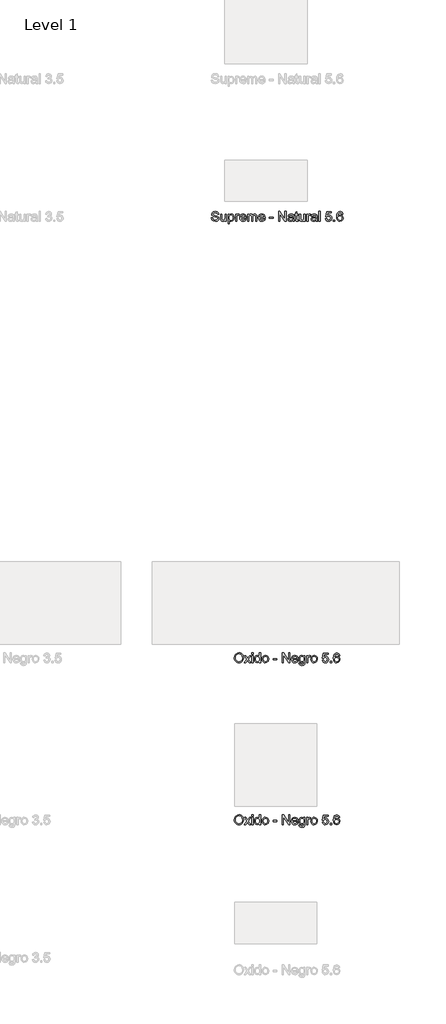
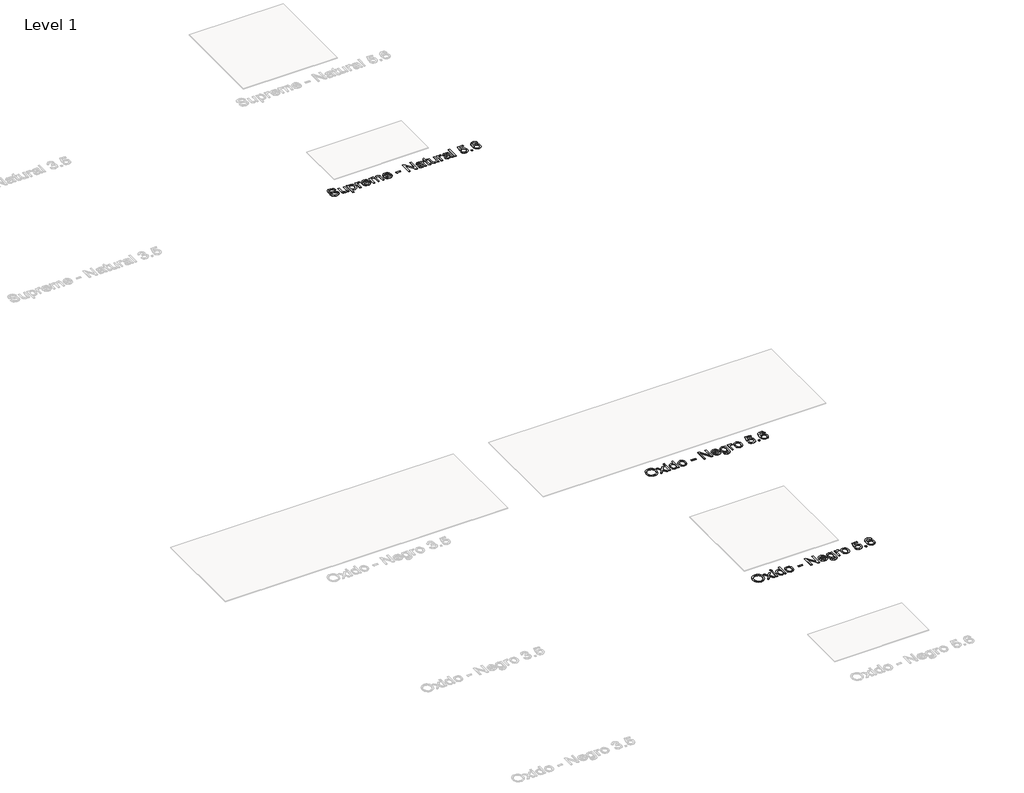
# One storey, part 39 of 80: 3 proxies.
"""IFC4 building model written with IfcOpenShell, lengths in millimetres."""

from ifc_helpers import new_model, si_unit, origin, origin_with_axes, place, context, project, spatial, polyline, outline, extrude, element, save

model = new_model("IFC4")

# Units and contexts
model_context = context("Model", 3, world=origin())
ifc_project = project(units=[si_unit("LENGTHUNIT", "METRE", prefix="MILLI")], contexts=[model_context])

# Site, building, storey
site = spatial("IfcSite", under=ifc_project)
building = spatial("IfcBuilding", under=site)
storey = spatial("IfcBuildingStorey", under=building, Name="Level 1", Elevation=0.0)

# Proxies
placement = place(None, origin())
element("IfcBuildingElementProxy", 1, Name="24\" Arial", ObjectType="24\" Arial", at=placement, inside=storey, context=model_context, shape_type="SweptSolid", body=[
    extrude(outline(polyline([(16211.3854306, -7587.3504862), (16215.3229306, -7561.2230824), (16227.1354306, -7541.4562555), (16245.1714883, -7529.0163516), (16267.7796613, -7524.869717), (16283.2772575, -7526.8168324), (16297.1738921, -7532.6581785), (16308.7123536, -7541.9826978), (16317.1354306, -7554.3793324), (16322.284469, -7569.2495247), (16324.0008152, -7585.994717), (16322.1943248, -7602.963467), (16316.7748536, -7618.0427939), (16308.0416806, -7630.4610632), (16296.2940844, -7639.4466401), (16282.5164402, -7644.8985632), (16267.6931229, -7646.7158709), (16251.9575459, -7644.7074574), (16237.9815844, -7638.682217), (16226.471969, -7629.1846209), (16218.1354306, -7616.7591401), (16213.0729306, -7602.4622651), (16211.3854306, -7587.3504862)]), holes=[polyline([(16226.1546613, -7587.494717), (16229.1077863, -7605.9778901), (16237.9671613, -7620.0620247), (16251.2832671, -7628.9754862), (16267.6065844, -7631.9466401), (16284.1678825, -7628.9466401), (16297.5056229, -7619.9466401), (16306.300094, -7605.4298132), (16309.2315844, -7585.8793324), (16304.2123536, -7561.5043324), (16298.0356709, -7552.2627459), (16289.5440844, -7545.3649093), (16267.8661998, -7539.6389478), (16251.9791806, -7542.3973612), (16238.471969, -7550.6726016), (16229.2339883, -7565.3949574), (16226.1546613, -7587.494717)])]), origin_with_axes(), (0.0, 0.0, 1.0), 2.0),
    extrude(outline(polyline([(16333.2315844, -7644.869717), (16364.7892767, -7601.2543324), (16335.0777383, -7558.1004862), (16352.846969, -7558.1004862), (16367.1835075, -7578.869717), (16373.8758152, -7588.6774093), (16379.6738921, -7580.6581785), (16396.0008152, -7558.1004862), (16413.7700459, -7558.1004862), (16382.5585075, -7601.2543324), (16412.6161998, -7644.869717), (16394.846969, -7644.869717), (16376.7604306, -7618.6485632), (16373.4431229, -7613.8601016), (16351.0008152, -7644.869717), (16333.2315844, -7644.869717)])), origin_with_axes(), (0.0, 0.0, 1.0), 2.0),
    extrude(outline(polyline([(16425.5392767, -7541.4851016), (16425.5392767, -7526.7158709), (16440.3085075, -7526.7158709), (16440.3085075, -7541.4851016), (16425.5392767, -7541.4851016)])), origin_with_axes(), (0.0, 0.0, 1.0), 2.0),
    extrude(outline(polyline([(16425.5392767, -7644.869717), (16425.5392767, -7558.1004862), (16440.3085075, -7558.1004862), (16440.3085075, -7644.869717), (16425.5392767, -7644.869717)])), origin_with_axes(), (0.0, 0.0, 1.0), 2.0),
    extrude(outline(polyline([(16516.0008152, -7644.869717), (16516.0008152, -7630.9370247), (16506.2291806, -7642.7711593), (16492.721969, -7646.7158709), (16474.4335075, -7641.0043324), (16461.5104306, -7625.0668324), (16456.9238921, -7601.5716401), (16461.1498536, -7578.0620247), (16466.4286998, -7568.7375055), (16473.8133152, -7561.8793324), (16492.6642767, -7556.2543324), (16506.2796613, -7560.2783709), (16516.0008152, -7570.7351016), (16516.0008152, -7526.7158709), (16530.7700459, -7526.7158709), (16530.7700459, -7644.869717), (16516.0008152, -7644.869717)]), holes=[polyline([(16471.6931229, -7601.5139478), (16473.3589883, -7614.8733228), (16478.3565844, -7624.3745247), (16485.6186036, -7630.0536112), (16494.0777383, -7631.9466401), (16502.5332671, -7630.1401497), (16509.6113921, -7624.7206785), (16514.4034594, -7615.5872651), (16516.0008152, -7602.6389478), (16514.3746133, -7588.4826978), (16509.4960075, -7578.6677939), (16502.237594, -7572.9346209), (16493.471969, -7571.0235632), (16484.9262959, -7572.8588997), (16477.9238921, -7578.3649093), (16473.2508152, -7587.822842), (16471.6931229, -7601.5139478)])]), origin_with_axes(), (0.0, 0.0, 1.0), 2.0),
    extrude(outline(polyline([(16549.2315844, -7601.4851016), (16552.4262959, -7580.5644285), (16562.0104306, -7565.8601016), (16573.8517767, -7558.6557747), (16588.0296613, -7556.2543324), (16603.5452863, -7559.1786112), (16615.9383152, -7567.9514478), (16624.0621133, -7581.8805343), (16626.7700459, -7600.2735632), (16621.9815844, -7626.5524093), (16608.034469, -7641.4226016), (16588.0296613, -7646.7158709), (16572.3265363, -7643.8024093), (16559.9479306, -7635.0620247), (16551.9106709, -7620.8408709), (16549.2315844, -7601.4851016)]), holes=[polyline([(16564.0008152, -7601.4562555), (16565.7099498, -7614.822842), (16570.8373536, -7624.3456785), (16578.5536998, -7630.0463997), (16588.0296613, -7631.9466401), (16597.4623536, -7630.0355824), (16605.1642767, -7624.3024093), (16610.2916806, -7614.6533709), (16612.0008152, -7600.994717), (16610.2808633, -7588.0175535), (16605.1210075, -7578.6245247), (16597.4082671, -7572.9238035), (16588.0296613, -7571.0235632), (16578.5536998, -7572.916592), (16570.8373536, -7578.5956785), (16565.7099498, -7588.0968805), (16564.0008152, -7601.4562555)])]), origin_with_axes(), (0.0, 0.0, 1.0), 2.0),
    extrude(outline(polyline([(16682.1546613, -7609.7927939), (16682.1546613, -7595.0235632), (16728.3085075, -7595.0235632), (16728.3085075, -7609.7927939), (16682.1546613, -7609.7927939)])), origin_with_axes(), (0.0, 0.0, 1.0), 2.0),
    extrude(outline(polyline([(16792.9238921, -7644.869717), (16792.9238921, -7526.7158709), (16808.7315844, -7526.7158709), (16870.4623536, -7620.3216401), (16870.4623536, -7526.7158709), (16885.2315844, -7526.7158709), (16885.2315844, -7644.869717), (16869.4238921, -7644.869717), (16807.6931229, -7551.2351016), (16807.6931229, -7644.869717), (16792.9238921, -7644.869717)])), origin_with_axes(), (0.0, 0.0, 1.0), 2.0),
    extrude(outline(polyline([(16969.9815844, -7619.0235632), (16984.4623536, -7620.869717), (16979.2448056, -7631.7807747), (16970.9190844, -7639.9370247), (16959.6726902, -7645.0211593), (16945.6931229, -7646.7158709), (16928.3637959, -7643.791592), (16915.0296613, -7635.0187555), (16906.5272575, -7620.9670728), (16903.6931229, -7602.2062555), (16906.5561036, -7582.8144285), (16915.1450459, -7568.3120247), (16928.2988921, -7559.2687555), (16944.8565844, -7556.2543324), (16960.8986517, -7559.2615439), (16973.7171613, -7568.2831785), (16982.1222094, -7582.7567362), (16984.9238921, -7602.119717), (16984.8373536, -7606.1004862), (16918.4623536, -7606.1004862), (16921.018844, -7617.1557747), (16926.9575459, -7625.2831785), (16935.5284594, -7630.2807747), (16945.9815844, -7631.9466401), (16960.4623536, -7628.8601016), (16969.9815844, -7619.0235632)]), holes=[polyline([(16918.4623536, -7591.3312555), (16970.1546613, -7591.3312555), (16964.2411998, -7577.9466401), (16955.6306229, -7572.7543324), (16944.7988921, -7571.0235632), (16926.6113921, -7576.5476016), (16920.8890363, -7583.0055343), (16918.4623536, -7591.3312555)])]), origin_with_axes(), (0.0, 0.0, 1.0), 2.0),
    extrude(outline(polyline([(16996.0008152, -7652.2543324), (17010.7700459, -7654.1004862), (17015.5585075, -7661.8889478), (17029.8950459, -7665.1774093), (17045.0104306, -7661.4562555), (17052.221969, -7651.0139478), (17053.2315844, -7633.7927939), (17042.8325459, -7642.1004862), (17030.1546613, -7644.869717), (17014.9274979, -7641.6461593), (17003.5729306, -7631.9754862), (16996.5092286, -7617.7976016), (16994.1546613, -7601.0524093), (16998.3806229, -7578.1629862), (17010.6113921, -7561.9658709), (17029.4335075, -7556.2543324), (17042.6089883, -7559.4851016), (17053.2315844, -7569.1774093), (17053.2315844, -7558.1004862), (17068.0008152, -7558.1004862), (17068.0008152, -7633.0139478), (17063.9623536, -7661.7014478), (17051.1690844, -7675.0427939), (17029.6065844, -7679.9466401), (17015.8649979, -7678.2194766), (17005.0440844, -7673.0379862), (16998.1029786, -7664.3877459), (16996.0008152, -7652.2543324)]), holes=[polyline([(17008.9238921, -7600.0427939), (17010.4996133, -7613.5896689), (17015.2267767, -7622.9033709), (17022.3337479, -7628.3012074), (17031.0488921, -7630.1004862), (17039.6991325, -7628.3120247), (17046.8421613, -7622.9466401), (17051.6342286, -7613.7519285), (17053.2315844, -7600.4754862), (17051.5873536, -7587.6713997), (17046.6546613, -7578.4514478), (17039.4070652, -7572.8805343), (17030.8181229, -7571.0235632), (17022.3842286, -7572.8516882), (17015.3133152, -7578.3360632), (17010.5212479, -7587.4189959), (17008.9238921, -7600.0427939)])]), origin_with_axes(), (0.0, 0.0, 1.0), 2.0),
    extrude(outline(polyline([(17090.1546613, -7644.869717), (17090.1546613, -7558.1004862), (17103.0777383, -7558.1004862), (17103.0777383, -7570.9370247), (17112.2508152, -7559.1101016), (17121.4815844, -7556.2543324), (17136.3085075, -7560.8120247), (17131.3758152, -7574.0524093), (17120.9911998, -7571.0235632), (17112.6402383, -7573.9370247), (17107.3181229, -7582.0139478), (17104.9238921, -7599.2639478), (17104.9238921, -7644.869717), (17090.1546613, -7644.869717)])), origin_with_axes(), (0.0, 0.0, 1.0), 2.0),
    extrude(outline(polyline([(17141.846969, -7601.4851016), (17145.0416806, -7580.5644285), (17154.6258152, -7565.8601016), (17166.4671613, -7558.6557747), (17180.6450459, -7556.2543324), (17196.1606709, -7559.1786112), (17208.5536998, -7567.9514478), (17216.6774979, -7581.8805343), (17219.3854306, -7600.2735632), (17214.596969, -7626.5524093), (17200.6498536, -7641.4226016), (17180.6450459, -7646.7158709), (17164.9419209, -7643.8024093), (17152.5633152, -7635.0620247), (17144.5260556, -7620.8408709), (17141.846969, -7601.4851016)]), holes=[polyline([(17156.6161998, -7601.4562555), (17158.3253344, -7614.822842), (17163.4527383, -7624.3456785), (17171.1690844, -7630.0463997), (17180.6450459, -7631.9466401), (17190.0777383, -7630.0355824), (17197.7796613, -7624.3024093), (17202.9070652, -7614.6533709), (17204.6161998, -7600.994717), (17202.8962479, -7588.0175535), (17197.7363921, -7578.6245247), (17190.0236517, -7572.9238035), (17180.6450459, -7571.0235632), (17171.1690844, -7572.916592), (17163.4527383, -7578.5956785), (17158.3253344, -7588.0968805), (17156.6161998, -7601.4562555)])]), origin_with_axes(), (0.0, 0.0, 1.0), 2.0),
    extrude(outline(polyline([(17278.4623536, -7613.4851016), (17293.2315844, -7611.6389478), (17300.6738921, -7626.8552939), (17316.1065844, -7631.9466401), (17326.6931229, -7630.1762074), (17334.6258152, -7624.8649093), (17339.5801421, -7616.6257266), (17341.2315844, -7606.0716401), (17339.6847094, -7596.1341401), (17335.0440844, -7588.5331785), (17327.2736517, -7583.7086593), (17316.3373536, -7582.1004862), (17303.3710075, -7584.6677939), (17295.0777383, -7591.3312555), (17280.3085075, -7589.4851016), (17293.2315844, -7528.5620247), (17350.4623536, -7528.5620247), (17350.4623536, -7543.3312555), (17305.1738921, -7543.3312555), (17298.8565844, -7575.869717), (17309.4070652, -7569.4658709), (17320.4623536, -7567.3312555), (17334.2616325, -7569.9778901), (17345.7171613, -7577.9177939), (17353.4299017, -7590.0187555), (17356.0008152, -7605.1485632), (17353.6859113, -7619.9177939), (17346.7411998, -7632.5524093), (17333.4431229, -7643.1750055), (17316.0488921, -7646.7158709), (17301.5428825, -7644.4406305), (17289.9863921, -7637.6149093), (17282.0645171, -7627.0319766), (17278.4623536, -7613.4851016)])), origin_with_axes(), (0.0, 0.0, 1.0), 2.0),
    extrude(outline(polyline([(17376.3085075, -7644.869717), (17376.3085075, -7630.1004862), (17391.0777383, -7630.1004862), (17391.0777383, -7644.869717), (17376.3085075, -7644.869717)])), origin_with_axes(), (0.0, 0.0, 1.0), 2.0),
    extrude(outline(polyline([(17490.7700459, -7558.1004862), (17476.0008152, -7559.9466401), (17470.4046613, -7547.6293324), (17463.7051421, -7543.0211593), (17455.6065844, -7541.4851016), (17442.2796613, -7545.0620247), (17432.1979306, -7558.4899093), (17428.0008152, -7584.8120247), (17441.0248536, -7573.0283709), (17457.1642767, -7569.1774093), (17470.8085075, -7571.8096209), (17482.2604306, -7579.7062555), (17490.0272575, -7591.7711593), (17492.6161998, -7606.9081785), (17487.7411998, -7627.2879862), (17474.3277383, -7641.7110632), (17454.971969, -7646.7158709), (17438.2159594, -7643.3985632), (17424.8710075, -7633.4466401), (17416.1414402, -7615.8793324), (17413.2315844, -7589.7158709), (17416.4623536, -7560.3000055), (17426.1546613, -7540.1870247), (17439.3878344, -7530.0836593), (17456.5296613, -7526.7158709), (17469.4887959, -7528.8000055), (17479.8661998, -7535.0524093), (17487.1354306, -7544.9826978), (17490.7700459, -7558.1004862)]), holes=[polyline([(17428.0008152, -7606.6774093), (17431.4190844, -7619.4706785), (17440.5056229, -7628.7591401), (17453.8181229, -7631.9466401), (17463.5645171, -7630.2951978), (17471.2267767, -7625.3408709), (17476.1919209, -7617.5524093), (17477.846969, -7607.3985632), (17476.2135556, -7597.6521689), (17471.3133152, -7590.2206785), (17463.5212479, -7585.5151497), (17453.2123536, -7583.9466401), (17443.4803825, -7585.5151497), (17435.3421613, -7590.2206785), (17429.8361517, -7597.4718805), (17428.0008152, -7606.6774093)])]), origin_with_axes(), (0.0, 0.0, 1.0), 2.0),
])
element("IfcBuildingElementProxy", 2, Name="24\" Arial", ObjectType="24\" Arial", at=placement, inside=storey, context=model_context, shape_type="SweptSolid", body=[
    extrude(outline(polyline([(16211.3854306, -9552.677529), (16215.3229306, -9526.5501252), (16227.1354306, -9506.7832983), (16245.1714883, -9494.3433944), (16267.7796613, -9490.1967598), (16283.2772575, -9492.1438752), (16297.1738921, -9497.9852213), (16308.7123536, -9507.3097406), (16317.1354306, -9519.7063752), (16322.284469, -9534.5765675), (16324.0008152, -9551.3217598), (16322.1943248, -9568.2905098), (16316.7748536, -9583.3698367), (16308.0416806, -9595.788106), (16296.2940844, -9604.7736829), (16282.5164402, -9610.225606), (16267.6931229, -9612.0429137), (16251.9575459, -9610.0345002), (16237.9815844, -9604.0092598), (16226.471969, -9594.5116637), (16218.1354306, -9582.0861829), (16213.0729306, -9567.7893079), (16211.3854306, -9552.677529)]), holes=[polyline([(16226.1546613, -9552.8217598), (16229.1077863, -9571.3049329), (16237.9671613, -9585.3890675), (16251.2832671, -9594.302529), (16267.6065844, -9597.2736829), (16284.1678825, -9594.2736829), (16297.5056229, -9585.2736829), (16306.300094, -9570.756856), (16309.2315844, -9551.2063752), (16304.2123536, -9526.8313752), (16298.0356709, -9517.5897887), (16289.5440844, -9510.6919521), (16267.8661998, -9504.9659906), (16251.9791806, -9507.724404), (16238.471969, -9515.9996444), (16229.2339883, -9530.7220002), (16226.1546613, -9552.8217598)])]), origin_with_axes(), (0.0, 0.0, 1.0), 2.0),
    extrude(outline(polyline([(16333.2315844, -9610.1967598), (16364.7892767, -9566.5813752), (16335.0777383, -9523.427529), (16352.846969, -9523.427529), (16367.1835075, -9544.1967598), (16373.8758152, -9554.0044521), (16379.6738921, -9545.9852213), (16396.0008152, -9523.427529), (16413.7700459, -9523.427529), (16382.5585075, -9566.5813752), (16412.6161998, -9610.1967598), (16394.846969, -9610.1967598), (16376.7604306, -9583.975606), (16373.4431229, -9579.1871444), (16351.0008152, -9610.1967598), (16333.2315844, -9610.1967598)])), origin_with_axes(), (0.0, 0.0, 1.0), 2.0),
    extrude(outline(polyline([(16425.5392767, -9506.8121444), (16425.5392767, -9492.0429137), (16440.3085075, -9492.0429137), (16440.3085075, -9506.8121444), (16425.5392767, -9506.8121444)])), origin_with_axes(), (0.0, 0.0, 1.0), 2.0),
    extrude(outline(polyline([(16425.5392767, -9610.1967598), (16425.5392767, -9523.427529), (16440.3085075, -9523.427529), (16440.3085075, -9610.1967598), (16425.5392767, -9610.1967598)])), origin_with_axes(), (0.0, 0.0, 1.0), 2.0),
    extrude(outline(polyline([(16516.0008152, -9610.1967598), (16516.0008152, -9596.2640675), (16506.2291806, -9608.0982021), (16492.721969, -9612.0429137), (16474.4335075, -9606.3313752), (16461.5104306, -9590.3938752), (16456.9238921, -9566.8986829), (16461.1498536, -9543.3890675), (16466.4286998, -9534.0645483), (16473.8133152, -9527.2063752), (16492.6642767, -9521.5813752), (16506.2796613, -9525.6054137), (16516.0008152, -9536.0621444), (16516.0008152, -9492.0429137), (16530.7700459, -9492.0429137), (16530.7700459, -9610.1967598), (16516.0008152, -9610.1967598)]), holes=[polyline([(16471.6931229, -9566.8409906), (16473.3589883, -9580.2003656), (16478.3565844, -9589.7015675), (16485.6186036, -9595.380654), (16494.0777383, -9597.2736829), (16502.5332671, -9595.4671925), (16509.6113921, -9590.0477213), (16514.4034594, -9580.9143079), (16516.0008152, -9567.9659906), (16514.3746133, -9553.8097406), (16509.4960075, -9543.9948367), (16502.237594, -9538.2616637), (16493.471969, -9536.350606), (16484.9262959, -9538.1859425), (16477.9238921, -9543.6919521), (16473.2508152, -9553.1498848), (16471.6931229, -9566.8409906)])]), origin_with_axes(), (0.0, 0.0, 1.0), 2.0),
    extrude(outline(polyline([(16549.2315844, -9566.8121444), (16552.4262959, -9545.8914713), (16562.0104306, -9531.1871444), (16573.8517767, -9523.9828175), (16588.0296613, -9521.5813752), (16603.5452863, -9524.505654), (16615.9383152, -9533.2784906), (16624.0621133, -9547.2075771), (16626.7700459, -9565.600606), (16621.9815844, -9591.8794521), (16608.034469, -9606.7496444), (16588.0296613, -9612.0429137), (16572.3265363, -9609.1294521), (16559.9479306, -9600.3890675), (16551.9106709, -9586.1679137), (16549.2315844, -9566.8121444)]), holes=[polyline([(16564.0008152, -9566.7832983), (16565.7099498, -9580.1498848), (16570.8373536, -9589.6727213), (16578.5536998, -9595.3734425), (16588.0296613, -9597.2736829), (16597.4623536, -9595.3626252), (16605.1642767, -9589.6294521), (16610.2916806, -9579.9804137), (16612.0008152, -9566.3217598), (16610.2808633, -9553.3445963), (16605.1210075, -9543.9515675), (16597.4082671, -9538.2508463), (16588.0296613, -9536.350606), (16578.5536998, -9538.2436348), (16570.8373536, -9543.9227213), (16565.7099498, -9553.4239233), (16564.0008152, -9566.7832983)])]), origin_with_axes(), (0.0, 0.0, 1.0), 2.0),
    extrude(outline(polyline([(16682.1546613, -9575.1198367), (16682.1546613, -9560.350606), (16728.3085075, -9560.350606), (16728.3085075, -9575.1198367), (16682.1546613, -9575.1198367)])), origin_with_axes(), (0.0, 0.0, 1.0), 2.0),
    extrude(outline(polyline([(16792.9238921, -9610.1967598), (16792.9238921, -9492.0429137), (16808.7315844, -9492.0429137), (16870.4623536, -9585.6486829), (16870.4623536, -9492.0429137), (16885.2315844, -9492.0429137), (16885.2315844, -9610.1967598), (16869.4238921, -9610.1967598), (16807.6931229, -9516.5621444), (16807.6931229, -9610.1967598), (16792.9238921, -9610.1967598)])), origin_with_axes(), (0.0, 0.0, 1.0), 2.0),
    extrude(outline(polyline([(16969.9815844, -9584.350606), (16984.4623536, -9586.1967598), (16979.2448056, -9597.1078175), (16970.9190844, -9605.2640675), (16959.6726902, -9610.3482021), (16945.6931229, -9612.0429137), (16928.3637959, -9609.1186348), (16915.0296613, -9600.3457983), (16906.5272575, -9586.2941156), (16903.6931229, -9567.5332983), (16906.5561036, -9548.1414713), (16915.1450459, -9533.6390675), (16928.2988921, -9524.5957983), (16944.8565844, -9521.5813752), (16960.8986517, -9524.5885867), (16973.7171613, -9533.6102213), (16982.1222094, -9548.083779), (16984.9238921, -9567.4467598), (16984.8373536, -9571.427529), (16918.4623536, -9571.427529), (16921.018844, -9582.4828175), (16926.9575459, -9590.6102213), (16935.5284594, -9595.6078175), (16945.9815844, -9597.2736829), (16960.4623536, -9594.1871444), (16969.9815844, -9584.350606)]), holes=[polyline([(16918.4623536, -9556.6582983), (16970.1546613, -9556.6582983), (16964.2411998, -9543.2736829), (16955.6306229, -9538.0813752), (16944.7988921, -9536.350606), (16926.6113921, -9541.8746444), (16920.8890363, -9548.3325771), (16918.4623536, -9556.6582983)])]), origin_with_axes(), (0.0, 0.0, 1.0), 2.0),
    extrude(outline(polyline([(16996.0008152, -9617.5813752), (17010.7700459, -9619.427529), (17015.5585075, -9627.2159906), (17029.8950459, -9630.5044521), (17045.0104306, -9626.7832983), (17052.221969, -9616.3409906), (17053.2315844, -9599.1198367), (17042.8325459, -9607.427529), (17030.1546613, -9610.1967598), (17014.9274979, -9606.9732021), (17003.5729306, -9597.302529), (16996.5092286, -9583.1246444), (16994.1546613, -9566.3794521), (16998.3806229, -9543.490029), (17010.6113921, -9527.2929137), (17029.4335075, -9521.5813752), (17042.6089883, -9524.8121444), (17053.2315844, -9534.5044521), (17053.2315844, -9523.427529), (17068.0008152, -9523.427529), (17068.0008152, -9598.3409906), (17063.9623536, -9627.0284906), (17051.1690844, -9640.3698367), (17029.6065844, -9645.2736829), (17015.8649979, -9643.5465194), (17005.0440844, -9638.365029), (16998.1029786, -9629.7147887), (16996.0008152, -9617.5813752)]), holes=[polyline([(17008.9238921, -9565.3698367), (17010.4996133, -9578.9167117), (17015.2267767, -9588.2304137), (17022.3337479, -9593.6282502), (17031.0488921, -9595.427529), (17039.6991325, -9593.6390675), (17046.8421613, -9588.2736829), (17051.6342286, -9579.0789713), (17053.2315844, -9565.802529), (17051.5873536, -9552.9984425), (17046.6546613, -9543.7784906), (17039.4070652, -9538.2075771), (17030.8181229, -9536.350606), (17022.3842286, -9538.178731), (17015.3133152, -9543.663106), (17010.5212479, -9552.7460387), (17008.9238921, -9565.3698367)])]), origin_with_axes(), (0.0, 0.0, 1.0), 2.0),
    extrude(outline(polyline([(17090.1546613, -9610.1967598), (17090.1546613, -9523.427529), (17103.0777383, -9523.427529), (17103.0777383, -9536.2640675), (17112.2508152, -9524.4371444), (17121.4815844, -9521.5813752), (17136.3085075, -9526.1390675), (17131.3758152, -9539.3794521), (17120.9911998, -9536.350606), (17112.6402383, -9539.2640675), (17107.3181229, -9547.3409906), (17104.9238921, -9564.5909906), (17104.9238921, -9610.1967598), (17090.1546613, -9610.1967598)])), origin_with_axes(), (0.0, 0.0, 1.0), 2.0),
    extrude(outline(polyline([(17141.846969, -9566.8121444), (17145.0416806, -9545.8914713), (17154.6258152, -9531.1871444), (17166.4671613, -9523.9828175), (17180.6450459, -9521.5813752), (17196.1606709, -9524.505654), (17208.5536998, -9533.2784906), (17216.6774979, -9547.2075771), (17219.3854306, -9565.600606), (17214.596969, -9591.8794521), (17200.6498536, -9606.7496444), (17180.6450459, -9612.0429137), (17164.9419209, -9609.1294521), (17152.5633152, -9600.3890675), (17144.5260556, -9586.1679137), (17141.846969, -9566.8121444)]), holes=[polyline([(17156.6161998, -9566.7832983), (17158.3253344, -9580.1498848), (17163.4527383, -9589.6727213), (17171.1690844, -9595.3734425), (17180.6450459, -9597.2736829), (17190.0777383, -9595.3626252), (17197.7796613, -9589.6294521), (17202.9070652, -9579.9804137), (17204.6161998, -9566.3217598), (17202.8962479, -9553.3445963), (17197.7363921, -9543.9515675), (17190.0236517, -9538.2508463), (17180.6450459, -9536.350606), (17171.1690844, -9538.2436348), (17163.4527383, -9543.9227213), (17158.3253344, -9553.4239233), (17156.6161998, -9566.7832983)])]), origin_with_axes(), (0.0, 0.0, 1.0), 2.0),
    extrude(outline(polyline([(17278.4623536, -9578.8121444), (17293.2315844, -9576.9659906), (17300.6738921, -9592.1823367), (17316.1065844, -9597.2736829), (17326.6931229, -9595.5032502), (17334.6258152, -9590.1919521), (17339.5801421, -9581.9527694), (17341.2315844, -9571.3986829), (17339.6847094, -9561.4611829), (17335.0440844, -9553.8602213), (17327.2736517, -9549.0357021), (17316.3373536, -9547.427529), (17303.3710075, -9549.9948367), (17295.0777383, -9556.6582983), (17280.3085075, -9554.8121444), (17293.2315844, -9493.8890675), (17350.4623536, -9493.8890675), (17350.4623536, -9508.6582983), (17305.1738921, -9508.6582983), (17298.8565844, -9541.1967598), (17309.4070652, -9534.7929137), (17320.4623536, -9532.6582983), (17334.2616325, -9535.3049329), (17345.7171613, -9543.2448367), (17353.4299017, -9555.3457983), (17356.0008152, -9570.475606), (17353.6859113, -9585.2448367), (17346.7411998, -9597.8794521), (17333.4431229, -9608.5020483), (17316.0488921, -9612.0429137), (17301.5428825, -9609.7676733), (17289.9863921, -9602.9419521), (17282.0645171, -9592.3590194), (17278.4623536, -9578.8121444)])), origin_with_axes(), (0.0, 0.0, 1.0), 2.0),
    extrude(outline(polyline([(17376.3085075, -9610.1967598), (17376.3085075, -9595.427529), (17391.0777383, -9595.427529), (17391.0777383, -9610.1967598), (17376.3085075, -9610.1967598)])), origin_with_axes(), (0.0, 0.0, 1.0), 2.0),
    extrude(outline(polyline([(17490.7700459, -9523.427529), (17476.0008152, -9525.2736829), (17470.4046613, -9512.9563752), (17463.7051421, -9508.3482021), (17455.6065844, -9506.8121444), (17442.2796613, -9510.3890675), (17432.1979306, -9523.8169521), (17428.0008152, -9550.1390675), (17441.0248536, -9538.3554137), (17457.1642767, -9534.5044521), (17470.8085075, -9537.1366637), (17482.2604306, -9545.0332983), (17490.0272575, -9557.0982021), (17492.6161998, -9572.2352213), (17487.7411998, -9592.615029), (17474.3277383, -9607.038106), (17454.971969, -9612.0429137), (17438.2159594, -9608.725606), (17424.8710075, -9598.7736829), (17416.1414402, -9581.2063752), (17413.2315844, -9555.0429137), (17416.4623536, -9525.6270483), (17426.1546613, -9505.5140675), (17439.3878344, -9495.4107021), (17456.5296613, -9492.0429137), (17469.4887959, -9494.1270483), (17479.8661998, -9500.3794521), (17487.1354306, -9510.3097406), (17490.7700459, -9523.427529)]), holes=[polyline([(17428.0008152, -9572.0044521), (17431.4190844, -9584.7977213), (17440.5056229, -9594.0861829), (17453.8181229, -9597.2736829), (17463.5645171, -9595.6222406), (17471.2267767, -9590.6679137), (17476.1919209, -9582.8794521), (17477.846969, -9572.725606), (17476.2135556, -9562.9792117), (17471.3133152, -9555.5477213), (17463.5212479, -9550.8421925), (17453.2123536, -9549.2736829), (17443.4803825, -9550.8421925), (17435.3421613, -9555.5477213), (17429.8361517, -9562.7989233), (17428.0008152, -9572.0044521)])]), origin_with_axes(), (0.0, 0.0, 1.0), 2.0),
])
element("IfcBuildingElementProxy", 3, Name="24\" Arial", ObjectType="24\" Arial", at=placement, inside=storey, context=model_context, shape_type="SweptSolid", body=[
    extrude(outline(polyline([(15932.6161998, -2247.1898581), (15947.3854306, -2247.1898581), (15952.1450459, -2261.973512), (15963.7700459, -2271.3196658), (15981.4815844, -2274.8821658), (15996.9142767, -2272.1850504), (16006.8806229, -2264.7715889), (16010.1546613, -2254.862935), (16007.7027383, -2245.6465889), (15997.6642767, -2238.9398581), (15976.159469, -2233.300435), (15953.0104306, -2226.0167812), (15940.4479306, -2215.0263966), (15936.3085075, -2200.3437043), (15941.4286998, -2183.6273581), (15956.3854306, -2171.8292812), (15978.2796613, -2167.8052427), (16001.6450459, -2172.0167812), (16017.221969, -2184.3917812), (16023.0777383, -2202.8821658), (16008.3085075, -2202.8821658), (16005.596969, -2194.0696658), (15999.9431229, -2187.7090889), (15991.1089883, -2183.8581273), (15978.8565844, -2182.5744735), (15966.315719, -2183.8437043), (15957.7123536, -2187.6513966), (15952.7363921, -2193.254762), (15951.0777383, -2199.911012), (15955.7796613, -2210.1513966), (15979.8950459, -2218.4013966), (16006.0296613, -2225.8148581), (16020.3229306, -2237.786012), (16024.9238921, -2254.487935), (16019.6306229, -2272.1562043), (16004.3998536, -2285.050435), (15982.0585075, -2289.6513966), (15955.6786998, -2284.6898581), (15946.1919209, -2278.473512), (15938.9911998, -2269.7475504), (15932.6161998, -2247.1898581)])), origin_with_axes(), (0.0, 0.0, 1.0), 2.0),
    extrude(outline(polyline([(16100.6161998, -2287.8052427), (16100.6161998, -2272.8917812), (16089.0488921, -2285.4614927), (16073.9623536, -2289.6513966), (16060.0729306, -2286.7090889), (16050.4960075, -2279.3244735), (16046.096969, -2268.4494735), (16045.2315844, -2254.7187043), (16045.2315844, -2201.036012), (16060.0008152, -2201.036012), (16060.0008152, -2247.7667812), (16060.8950459, -2262.8244735), (16066.7363921, -2271.6658197), (16077.7411998, -2274.8821658), (16090.0729306, -2271.5937043), (16098.221969, -2262.6369735), (16100.6161998, -2246.1802427), (16100.6161998, -2201.036012), (16115.3854306, -2201.036012), (16115.3854306, -2287.8052427), (16100.6161998, -2287.8052427)])), origin_with_axes(), (0.0, 0.0, 1.0), 2.0),
    extrude(outline(polyline([(16135.6931229, -2321.036012), (16135.6931229, -2201.036012), (16150.4623536, -2201.036012), (16150.4623536, -2215.5167812), (16160.6738921, -2203.2715889), (16174.4623536, -2199.1898581), (16193.1835075, -2204.9013966), (16205.4142767, -2220.9975504), (16209.5392767, -2243.7571658), (16204.8806229, -2267.6850504), (16199.1690844, -2277.0744735), (16191.3517767, -2283.9831273), (16172.6738921, -2289.6513966), (16159.8229306, -2285.8581273), (16150.4623536, -2276.2667812), (16150.4623536, -2321.036012), (16135.6931229, -2321.036012)]), holes=[polyline([(16150.4623536, -2245.112935), (16152.0597094, -2258.3533197), (16156.8517767, -2267.612935), (16163.9226902, -2273.0648581), (16172.3565844, -2274.8821658), (16180.9274979, -2272.9999543), (16188.1786998, -2267.3533197), (16193.1222094, -2257.754762), (16194.7700459, -2244.0167812), (16193.1618729, -2230.848512), (16188.3373536, -2221.4590889), (16181.2772575, -2215.8340889), (16172.9623536, -2213.9590889), (16164.6149979, -2215.9530793), (16157.284469, -2221.9350504), (16152.1678825, -2231.7175023), (16150.4623536, -2245.112935)])]), origin_with_axes(), (0.0, 0.0, 1.0), 2.0),
    extrude(outline(polyline([(16226.1546613, -2287.8052427), (16226.1546613, -2201.036012), (16239.0777383, -2201.036012), (16239.0777383, -2213.8725504), (16248.2508152, -2202.0456273), (16257.4815844, -2199.1898581), (16272.3085075, -2203.7475504), (16267.3758152, -2216.987935), (16256.9911998, -2213.9590889), (16248.6402383, -2216.8725504), (16243.3181229, -2224.9494735), (16240.9238921, -2242.1994735), (16240.9238921, -2287.8052427), (16226.1546613, -2287.8052427)])), origin_with_axes(), (0.0, 0.0, 1.0), 2.0),
    extrude(outline(polyline([(16342.2892767, -2261.9590889), (16356.7700459, -2263.8052427), (16351.5524979, -2274.7163004), (16343.2267767, -2282.8725504), (16331.9803825, -2287.956685), (16318.0008152, -2289.6513966), (16300.6714883, -2286.7271177), (16287.3373536, -2277.9542812), (16278.8349498, -2263.9025985), (16276.0008152, -2245.1417812), (16278.8637959, -2225.7499543), (16287.4527383, -2211.2475504), (16300.6065844, -2202.2042812), (16317.1642767, -2199.1898581), (16333.206344, -2202.1970697), (16346.0248536, -2211.2187043), (16354.4299017, -2225.692262), (16357.2315844, -2245.0552427), (16357.1450459, -2249.036012), (16290.7700459, -2249.036012), (16293.3265363, -2260.0913004), (16299.2652383, -2268.2187043), (16307.8361517, -2273.2163004), (16318.2892767, -2274.8821658), (16332.7700459, -2271.7956273), (16342.2892767, -2261.9590889)]), holes=[polyline([(16290.7700459, -2234.2667812), (16342.4623536, -2234.2667812), (16336.5488921, -2220.8821658), (16327.9383152, -2215.6898581), (16317.1065844, -2213.9590889), (16298.9190844, -2219.4831273), (16293.1967286, -2225.94106), (16290.7700459, -2234.2667812)])]), origin_with_axes(), (0.0, 0.0, 1.0), 2.0),
    extrude(outline(polyline([(16372.0008152, -2287.8052427), (16372.0008152, -2201.036012), (16386.7700459, -2201.036012), (16386.7700459, -2215.3148581), (16396.9238921, -2203.6177427), (16411.3758152, -2199.1898581), (16426.1738921, -2203.7042812), (16434.3085075, -2216.3533197), (16445.8325459, -2203.4807235), (16460.3854306, -2199.1898581), (16471.487594, -2200.9747139), (16479.6979306, -2206.3292812), (16484.7712479, -2215.3977908), (16486.4623536, -2228.3244735), (16486.4623536, -2287.8052427), (16471.6931229, -2287.8052427), (16471.6931229, -2234.6706273), (16470.3229306, -2222.3388966), (16465.3613921, -2216.2667812), (16456.9238921, -2213.9590889), (16448.9226902, -2215.4374543), (16442.3998536, -2219.8725504), (16438.0621133, -2227.567262), (16436.6161998, -2238.8244735), (16436.6161998, -2287.8052427), (16421.846969, -2287.8052427), (16421.846969, -2233.0263966), (16418.4286998, -2218.7187043), (16407.221969, -2213.9590889), (16396.2892767, -2217.1321658), (16389.0200459, -2226.4206273), (16386.7700459, -2244.0456273), (16386.7700459, -2287.8052427), (16372.0008152, -2287.8052427)])), origin_with_axes(), (0.0, 0.0, 1.0), 2.0),
    extrude(outline(polyline([(16569.3661998, -2261.9590889), (16583.846969, -2263.8052427), (16578.6294209, -2274.7163004), (16570.3036998, -2282.8725504), (16559.0573056, -2287.956685), (16545.0777383, -2289.6513966), (16527.7484113, -2286.7271177), (16514.4142767, -2277.9542812), (16505.9118729, -2263.9025985), (16503.0777383, -2245.1417812), (16505.940719, -2225.7499543), (16514.5296613, -2211.2475504), (16527.6835075, -2202.2042812), (16544.2411998, -2199.1898581), (16560.2832671, -2202.1970697), (16573.1017767, -2211.2187043), (16581.5068248, -2225.692262), (16584.3085075, -2245.0552427), (16584.221969, -2249.036012), (16517.846969, -2249.036012), (16520.4034594, -2260.0913004), (16526.3421613, -2268.2187043), (16534.9130748, -2273.2163004), (16545.3661998, -2274.8821658), (16559.846969, -2271.7956273), (16569.3661998, -2261.9590889)]), holes=[polyline([(16517.846969, -2234.2667812), (16569.5392767, -2234.2667812), (16563.6258152, -2220.8821658), (16555.0152383, -2215.6898581), (16544.1835075, -2213.9590889), (16525.9960075, -2219.4831273), (16520.2736517, -2225.94106), (16517.846969, -2234.2667812)])]), origin_with_axes(), (0.0, 0.0, 1.0), 2.0),
    extrude(outline(polyline([(16637.846969, -2252.7283197), (16637.846969, -2237.9590889), (16684.0008152, -2237.9590889), (16684.0008152, -2252.7283197), (16637.846969, -2252.7283197)])), origin_with_axes(), (0.0, 0.0, 1.0), 2.0),
    extrude(outline(polyline([(16748.6161998, -2287.8052427), (16748.6161998, -2169.6513966), (16764.4238921, -2169.6513966), (16826.1546613, -2263.2571658), (16826.1546613, -2169.6513966), (16840.9238921, -2169.6513966), (16840.9238921, -2287.8052427), (16825.1161998, -2287.8052427), (16763.3854306, -2194.1706273), (16763.3854306, -2287.8052427), (16748.6161998, -2287.8052427)])), origin_with_axes(), (0.0, 0.0, 1.0), 2.0),
    extrude(outline(polyline([(16920.3085075, -2276.7283197), (16905.9863921, -2286.737935), (16890.1642767, -2289.6513966), (16877.8217286, -2287.8989927), (16868.7171613, -2282.6417812), (16863.1029786, -2274.6586081), (16861.2315844, -2264.7283197), (16864.0585075, -2253.0456273), (16871.4863921, -2244.5648581), (16881.8277383, -2239.7187043), (16894.6065844, -2237.4975504), (16920.221969, -2232.4206273), (16920.3085075, -2229.1321658), (16916.2411998, -2218.2283197), (16899.9142767, -2213.9590889), (16884.971969, -2216.800435), (16877.846969, -2226.8821658), (16863.0777383, -2225.036012), (16869.4671613, -2210.612935), (16882.3325459, -2202.161012), (16901.8181229, -2199.1898581), (16919.7171613, -2201.8148581), (16929.8277383, -2208.4062043), (16934.3565844, -2218.4302427), (16935.0777383, -2231.3533197), (16935.0777383, -2249.7283197), (16935.8277383, -2275.3869735), (16938.7700459, -2287.8052427), (16924.0008152, -2287.8052427), (16920.3085075, -2276.7283197)]), holes=[polyline([(16920.3085075, -2247.1898581), (16896.4815844, -2251.7187043), (16883.7748536, -2254.112935), (16878.0200459, -2258.0071658), (16876.0008152, -2263.6898581), (16880.3998536, -2271.6802427), (16893.3085075, -2274.8821658), (16908.2508152, -2271.348512), (16917.8854306, -2262.7956273), (16920.221969, -2251.3725504), (16920.3085075, -2247.1898581)])]), origin_with_axes(), (0.0, 0.0, 1.0), 2.0),
    extrude(outline(polyline([(16986.7700459, -2275.487935), (16988.6161998, -2288.237935), (16977.5681229, -2289.6513966), (16965.1931229, -2287.1994735), (16959.0200459, -2280.7667812), (16957.2315844, -2264.0071658), (16957.2315844, -2215.8052427), (16946.1546613, -2215.8052427), (16946.1546613, -2201.036012), (16957.2315844, -2201.036012), (16957.2315844, -2179.9494735), (16972.0008152, -2171.2667812), (16972.0008152, -2201.036012), (16986.7700459, -2201.036012), (16986.7700459, -2215.8052427), (16972.0008152, -2215.8052427), (16972.0008152, -2263.5744735), (16972.7796613, -2271.1898581), (16975.3036998, -2273.8869735), (16980.3373536, -2274.8821658), (16986.7700459, -2275.487935)])), origin_with_axes(), (0.0, 0.0, 1.0), 2.0),
    extrude(outline(polyline([(17056.9238921, -2287.8052427), (17056.9238921, -2272.8917812), (17045.3565844, -2285.4614927), (17030.2700459, -2289.6513966), (17016.3806229, -2286.7090889), (17006.8036998, -2279.3244735), (17002.4046613, -2268.4494735), (17001.5392767, -2254.7187043), (17001.5392767, -2201.036012), (17016.3085075, -2201.036012), (17016.3085075, -2247.7667812), (17017.2027383, -2262.8244735), (17023.0440844, -2271.6658197), (17034.0488921, -2274.8821658), (17046.3806229, -2271.5937043), (17054.5296613, -2262.6369735), (17056.9238921, -2246.1802427), (17056.9238921, -2201.036012), (17071.6931229, -2201.036012), (17071.6931229, -2287.8052427), (17056.9238921, -2287.8052427)])), origin_with_axes(), (0.0, 0.0, 1.0), 2.0),
    extrude(outline(polyline([(17092.0008152, -2287.8052427), (17092.0008152, -2201.036012), (17104.9238921, -2201.036012), (17104.9238921, -2213.8725504), (17114.096969, -2202.0456273), (17123.3277383, -2199.1898581), (17138.1546613, -2203.7475504), (17133.221969, -2216.987935), (17122.8373536, -2213.9590889), (17114.4863921, -2216.8725504), (17109.1642767, -2224.9494735), (17106.7700459, -2242.1994735), (17106.7700459, -2287.8052427), (17092.0008152, -2287.8052427)])), origin_with_axes(), (0.0, 0.0, 1.0), 2.0),
    extrude(outline(polyline([(17202.7700459, -2276.7283197), (17188.4479306, -2286.737935), (17172.6258152, -2289.6513966), (17160.2832671, -2287.8989927), (17151.1786998, -2282.6417812), (17145.5645171, -2274.6586081), (17143.6931229, -2264.7283197), (17146.5200459, -2253.0456273), (17153.9479306, -2244.5648581), (17164.2892767, -2239.7187043), (17177.0681229, -2237.4975504), (17202.6835075, -2232.4206273), (17202.7700459, -2229.1321658), (17198.7027383, -2218.2283197), (17182.3758152, -2213.9590889), (17167.4335075, -2216.800435), (17160.3085075, -2226.8821658), (17145.5392767, -2225.036012), (17151.9286998, -2210.612935), (17164.7940844, -2202.161012), (17184.2796613, -2199.1898581), (17202.1786998, -2201.8148581), (17212.2892767, -2208.4062043), (17216.8181229, -2218.4302427), (17217.5392767, -2231.3533197), (17217.5392767, -2249.7283197), (17218.2892767, -2275.3869735), (17221.2315844, -2287.8052427), (17206.4623536, -2287.8052427), (17202.7700459, -2276.7283197)]), holes=[polyline([(17202.7700459, -2247.1898581), (17178.9431229, -2251.7187043), (17166.2363921, -2254.112935), (17160.4815844, -2258.0071658), (17158.4623536, -2263.6898581), (17162.8613921, -2271.6802427), (17175.7700459, -2274.8821658), (17190.7123536, -2271.348512), (17200.346969, -2262.7956273), (17202.6835075, -2251.3725504), (17202.7700459, -2247.1898581)])]), origin_with_axes(), (0.0, 0.0, 1.0), 2.0),
    extrude(outline(polyline([(17237.846969, -2287.8052427), (17237.846969, -2169.6513966), (17252.6161998, -2169.6513966), (17252.6161998, -2287.8052427), (17237.846969, -2287.8052427)])), origin_with_axes(), (0.0, 0.0, 1.0), 2.0),
    extrude(outline(polyline([(17317.2315844, -2256.4206273), (17332.0008152, -2254.5744735), (17339.4431229, -2269.7908197), (17354.8758152, -2274.8821658), (17365.4623536, -2273.1117331), (17373.3950459, -2267.800435), (17378.3493729, -2259.5612523), (17380.0008152, -2249.0071658), (17378.4539402, -2239.0696658), (17373.8133152, -2231.4687043), (17366.0428825, -2226.644185), (17355.1065844, -2225.036012), (17342.1402383, -2227.6033197), (17333.846969, -2234.2667812), (17319.0777383, -2232.4206273), (17332.0008152, -2171.4975504), (17389.2315844, -2171.4975504), (17389.2315844, -2186.2667812), (17343.9431229, -2186.2667812), (17337.6258152, -2218.8052427), (17348.1762959, -2212.4013966), (17359.2315844, -2210.2667812), (17373.0308633, -2212.9134158), (17384.4863921, -2220.8533197), (17392.1991325, -2232.9542812), (17394.7700459, -2248.0840889), (17392.4551421, -2262.8533197), (17385.5104306, -2275.487935), (17372.2123536, -2286.1105312), (17354.8181229, -2289.6513966), (17340.3121133, -2287.3761562), (17328.7556229, -2280.550435), (17320.8337479, -2269.9675023), (17317.2315844, -2256.4206273)])), origin_with_axes(), (0.0, 0.0, 1.0), 2.0),
    extrude(outline(polyline([(17415.0777383, -2287.8052427), (17415.0777383, -2273.036012), (17429.846969, -2273.036012), (17429.846969, -2287.8052427), (17415.0777383, -2287.8052427)])), origin_with_axes(), (0.0, 0.0, 1.0), 2.0),
    extrude(outline(polyline([(17529.5392767, -2201.036012), (17514.7700459, -2202.8821658), (17509.1738921, -2190.5648581), (17502.4743729, -2185.956685), (17494.3758152, -2184.4206273), (17481.0488921, -2187.9975504), (17470.9671613, -2201.425435), (17466.7700459, -2227.7475504), (17479.7940844, -2215.9638966), (17495.9335075, -2212.112935), (17509.5777383, -2214.7451466), (17521.0296613, -2222.6417812), (17528.7964883, -2234.706685), (17531.3854306, -2249.8437043), (17526.5104306, -2270.223512), (17513.096969, -2284.6465889), (17493.7411998, -2289.6513966), (17476.9851902, -2286.3340889), (17463.6402383, -2276.3821658), (17454.9106709, -2258.8148581), (17452.0008152, -2232.6513966), (17455.2315844, -2203.2355312), (17464.9238921, -2183.1225504), (17478.1570652, -2173.019185), (17495.2988921, -2169.6513966), (17508.2580267, -2171.7355312), (17518.6354306, -2177.987935), (17525.9046613, -2187.9182235), (17529.5392767, -2201.036012)]), holes=[polyline([(17466.7700459, -2249.612935), (17470.1883152, -2262.4062043), (17479.2748536, -2271.6946658), (17492.5873536, -2274.8821658), (17502.3337479, -2273.2307235), (17509.9960075, -2268.2763966), (17514.9611517, -2260.487935), (17516.6161998, -2250.3340889), (17514.9827863, -2240.5876947), (17510.0825459, -2233.1562043), (17502.2904786, -2228.4506754), (17491.9815844, -2226.8821658), (17482.2496133, -2228.4506754), (17474.1113921, -2233.1562043), (17468.6053825, -2240.4074062), (17466.7700459, -2249.612935)])]), origin_with_axes(), (0.0, 0.0, 1.0), 2.0),
])

save(model, "model.ifc")
